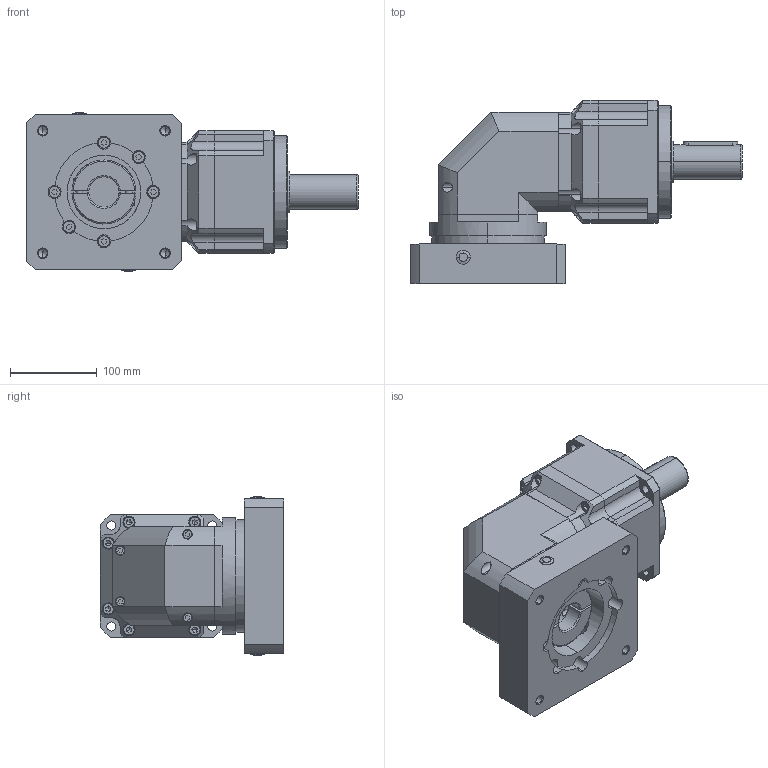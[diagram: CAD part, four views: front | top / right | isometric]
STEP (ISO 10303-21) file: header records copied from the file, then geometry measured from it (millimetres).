
FILE_DESCRIPTION (( 'STEP AP203' ), '1' );
FILE_NAME ('PHFZ142-L2-35-114.3-200-M12-TÐÍ.STEP', '2020-05-28T03:13:31', ( 'ylmfeng' ), ( 'ylmfeng.com' ), 'SwSTEP 2.0', 'SolidWorks 2014', '' );
FILE_SCHEMA (( 'CONFIG_CONTROL_DESIGN' ));
Length unit declared in the file: millimetre
Products named in the file (1): PHFZ142-L2-35-114.3-200-M12-T倰
Bounding box: 383.5 x 211.5 x 183 mm (x, y, z)
Volume: 5310298.2 mm3; surface area: 491127.5 mm2
Topology: 31 solids, 31 shells, 945 faces, 2275 edges, 1411 vertices
Faces by surface type: plane 407, cylinder 322, cone 126, torus 62, bspline 28
Entity records: 29537 total; most frequent: CARTESIAN_POINT 7334, DIRECTION 4815, ORIENTED_EDGE 4442, EDGE_CURVE 2221, AXIS2_PLACEMENT_3D 1855, VERTEX_POINT 1411, VECTOR 1105, LINE 1105
